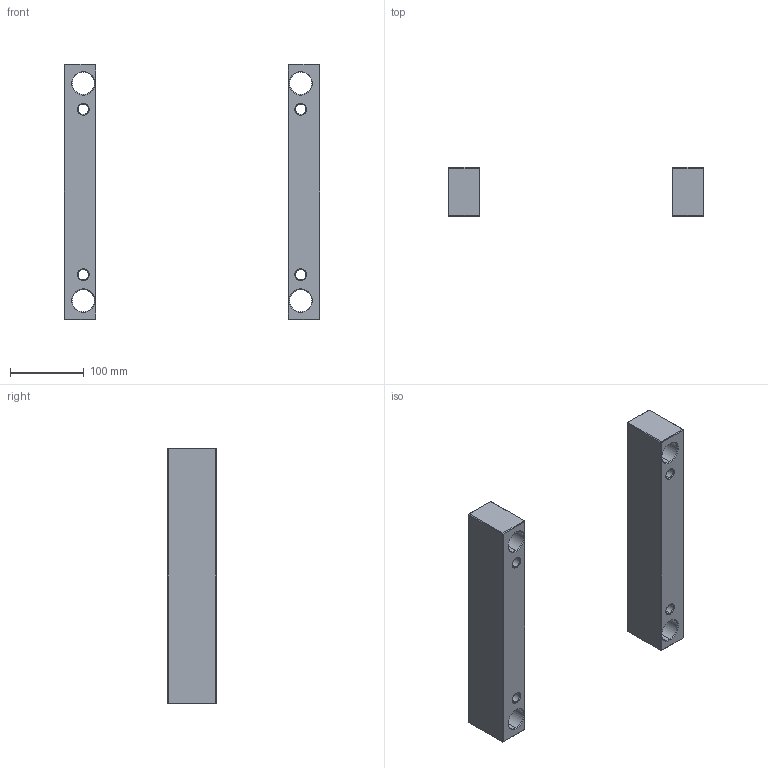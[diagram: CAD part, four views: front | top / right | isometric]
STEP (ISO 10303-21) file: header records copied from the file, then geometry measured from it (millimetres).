
FILE_DESCRIPTION (( 'STEP AP214' ), '1' );
FILE_NAME ('ESP-EU-346X346x66.STEP', '2020-04-16T10:00:39', ( 'August' ), ( '' ), 'SwSTEP 2.0', 'SolidWorks 2018', '' );
FILE_SCHEMA (( 'AUTOMOTIVE_DESIGN' ));
Length unit declared in the file: millimetre
Products named in the file (1): ESP-EU-346X346x66
Bounding box: 346 x 66 x 346 mm (x, y, z)
Volume: 1734266.7 mm3; surface area: 189049.1 mm2
Topology: 2 solids, 2 shells, 100 faces, 224 edges, 120 vertices
Faces by surface type: plane 52, cone 32, cylinder 16
Entity records: 2751 total; most frequent: DIRECTION 498, ORIENTED_EDGE 448, CARTESIAN_POINT 445, EDGE_CURVE 224, AXIS2_PLACEMENT_3D 173, VECTOR 152, LINE 152, VERTEX_POINT 120
